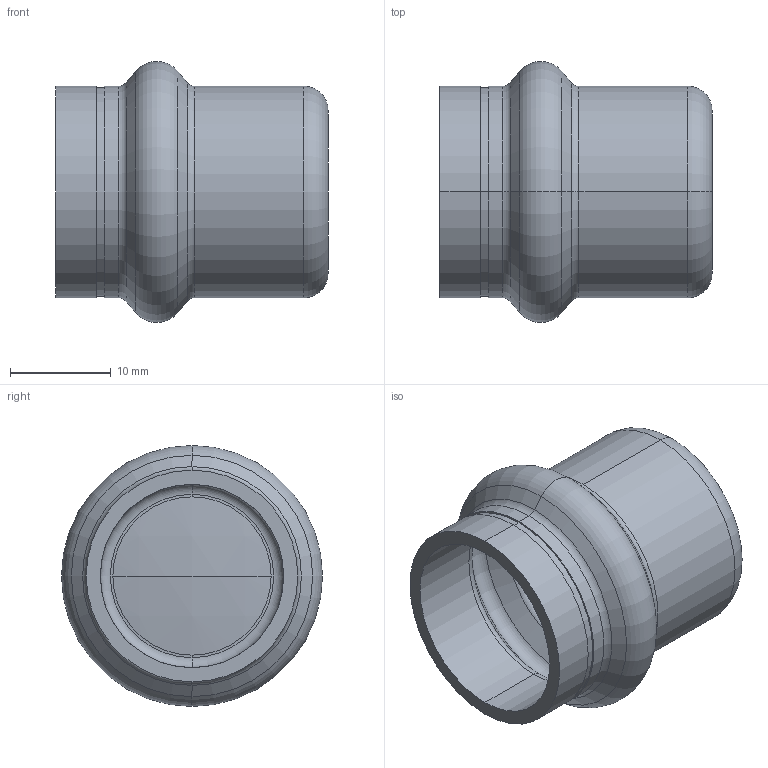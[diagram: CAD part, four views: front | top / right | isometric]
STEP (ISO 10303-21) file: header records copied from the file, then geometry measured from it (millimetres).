
FILE_DESCRIPTION (( 'STEP AP203' ), '1' );
FILE_NAME ('SP5301 18.STEP', '2017-04-24T09:26:46', ( '' ), ( '' ), 'SwSTEP 2.0', 'SolidWorks 2016', '' );
FILE_SCHEMA (( 'CONFIG_CONTROL_DESIGN' ));
Length unit declared in the file: millimetre
Products named in the file (1): SP5301 18
Bounding box: 27 x 25.9 x 25.9 mm (x, y, z)
Volume: 2900.1 mm3; surface area: 4246 mm2
Topology: 1 solids, 1 shells, 50 faces, 102 edges, 58 vertices
Faces by surface type: torus 20, cylinder 14, cone 8, sphere 4, plane 4
Entity records: 1403 total; most frequent: DIRECTION 284, CARTESIAN_POINT 211, ORIENTED_EDGE 204, AXIS2_PLACEMENT_3D 131, EDGE_CURVE 102, CIRCLE 80, VERTEX_POINT 58, EDGE_LOOP 54
